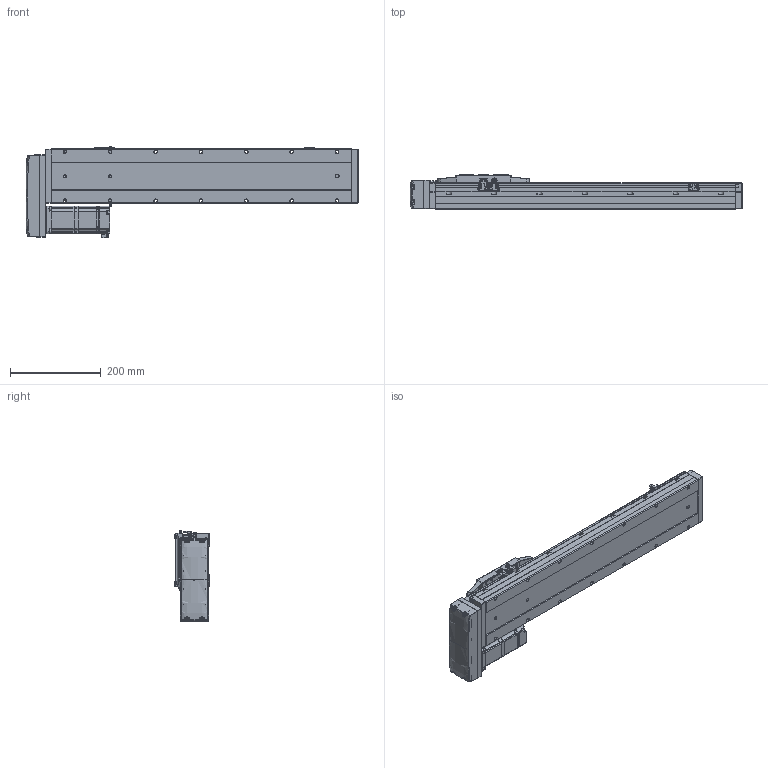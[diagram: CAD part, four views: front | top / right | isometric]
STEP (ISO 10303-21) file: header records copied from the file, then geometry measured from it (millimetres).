
FILE_DESCRIPTION (( 'STEP AP214' ), '1' );
FILE_NAME ('CTH12-L10-S450-BR-C40（简）.STEP', '2023-02-04T07:06:35', ( '' ), ( '' ), 'SwSTEP 2.0', 'SolidWorks 2018', '' );
FILE_SCHEMA (( 'AUTOMOTIVE_DESIGN' ));
Length unit declared in the file: millimetre
Products named in the file (24): CTH嫖萇羲壽假蚾啣; CTH12-L10-S450-BR-C40（简）; CTH12賑怢郪磁; CTH12覜茼え; PM-Y45; CTH400W垫板（3个厚）; CTH12; CTH12賑怢ㄗ潠ㄘ; 嫖萇羲壽郪磁1; CTH12_body_3; CTH400W假蚾啣; CTH12耜蚾裔; AC60_Valor predeterminado; 湮賑怢  裔赽-1(CTH12)賑怢; 嫖萇羲壽郪磁2; hex nuts, style 1-grades ab gb_GB_FASTENER_NUT_SNAB1 M3-N; CTH12-BL_body_4; 内六角圆柱头螺钉M3-1; M5蹟隊; 蚐郲; 内六角圆柱头螺钉M3; 内六角圆柱头螺钉M3-2; CTH12侧装连接板（标准）简; CTH12底座-L651简（450行程）
Assembly tree (44 placements, depth 4):
  CTH12-L10-S450-BR-C40（简）
    CTH12底座-L651简（450行程）
    蚐郲  x2
    CTH12_body_3
    CTH12-BL_body_4
    CTH12侧装连接板（标准）简
    CTH12耜蚾裔
    CTH12賑怢郪磁
      CTH12
        湮賑怢  裔赽-1(CTH12)賑怢
        CTH12賑怢ㄗ潠ㄘ
    CTH12覜茼え
    嫖萇羲壽郪磁1  x2
      CTH嫖萇羲壽假蚾啣
      PM-Y45
      内六角圆柱头螺钉M3-2
      内六角圆柱头螺钉M3-1
      hex nuts, style 1-grades ab gb_GB_FASTENER_NUT_SNAB1 M3-N
    嫖萇羲壽郪磁2
      CTH嫖萇羲壽假蚾啣
      PM-Y45
      内六角圆柱头螺钉M3-1  x2
      内六角圆柱头螺钉M3-2  x2
      hex nuts, style 1-grades ab gb_GB_FASTENER_NUT_SNAB1 M3-N  x2
    CTH400W垫板（3个厚）
    AC60_Valor predeterminado
    内六角圆柱头螺钉M3  x6
    M5蹟隊  x4
    CTH400W假蚾啣
Bounding box: 731.5 x 76 x 201.06 mm (x, y, z)
Volume: 5309243.1 mm3; surface area: 555141.9 mm2
Topology: 47 solids, 48 shells, 2741 faces, 6982 edges, 4459 vertices
Faces by surface type: plane 1503, cylinder 771, cone 319, bspline 96, torus 52
Entity records: 78925 total; most frequent: CARTESIAN_POINT 21558, ORIENTED_EDGE 11144, DIRECTION 10827, EDGE_CURVE 5572, AXIS2_PLACEMENT_3D 3656, VERTEX_POINT 3563, VECTOR 3515, LINE 3515
